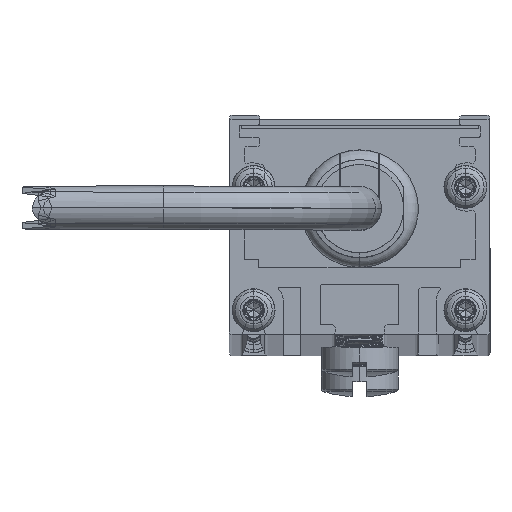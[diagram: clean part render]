
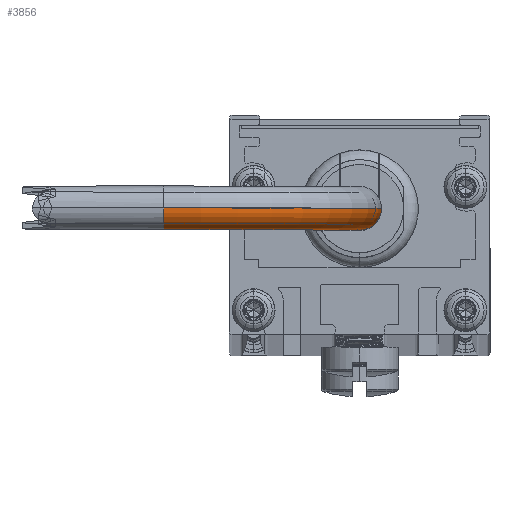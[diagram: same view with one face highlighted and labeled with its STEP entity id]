
A CAD part, top view. The second image highlights one B-rep face of the part: STEP entity #3856.
In plain terms, the highlighted toroidal (fillet/blend) face has major radius 25.4 mm and minor radius 2.845 mm.
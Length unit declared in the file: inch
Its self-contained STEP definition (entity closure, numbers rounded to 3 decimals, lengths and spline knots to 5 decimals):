
#222 = ORIENTED_EDGE ( 'NONE', *, *, #14963, .T. ) ;
#307 = TOROIDAL_SURFACE ( 'NONE', #14081, 1., 0.112 ) ;
#781 = CIRCLE ( 'NONE', #13940, 0.888 ) ;
#1013 = ORIENTED_EDGE ( 'NONE', *, *, #14126, .T. ) ;
#1018 = CARTESIAN_POINT ( 'NONE',  ( -0.112, 0., -1. ) ) ;
#1072 = DIRECTION ( 'NONE',  ( 0., 0., -1. ) ) ;
#1355 = CARTESIAN_POINT ( 'NONE',  ( 1., 0., -1. ) ) ;
#1572 = CARTESIAN_POINT ( 'NONE',  ( 1., 0., -1. ) ) ;
#1644 = FACE_OUTER_BOUND ( 'NONE', #11641, .T. ) ;
#1658 = VERTEX_POINT ( 'NONE', #3218 ) ;
#3039 = AXIS2_PLACEMENT_3D ( 'NONE', #1572, #13128, #4371 ) ;
#3125 = EDGE_CURVE ( 'NONE', #1658, #3799, #781, .T. ) ;
#3218 = CARTESIAN_POINT ( 'NONE',  ( 0.112, 0., -1. ) ) ;
#3799 = VERTEX_POINT ( 'NONE', #5457 ) ;
#3856 = ADVANCED_FACE ( 'NONE', ( #1644 ), #307, .T. ) ;
#3868 = CARTESIAN_POINT ( 'NONE',  ( 1., 0., -1. ) ) ;
#4026 = ORIENTED_EDGE ( 'NONE', *, *, #9128, .F. ) ;
#4371 = DIRECTION ( 'NONE',  ( 1., 0., 0. ) ) ;
#4765 = CARTESIAN_POINT ( 'NONE',  ( 0., 0., -1. ) ) ;
#5457 = CARTESIAN_POINT ( 'NONE',  ( 1., 0., -1.888 ) ) ;
#5577 = AXIS2_PLACEMENT_3D ( 'NONE', #11132, #15481, #15602 ) ;
#5600 = CIRCLE ( 'NONE', #10495, 0.112 ) ;
#6225 = VERTEX_POINT ( 'NONE', #12752 ) ;
#6524 = CIRCLE ( 'NONE', #3039, 1.112 ) ;
#6794 = VERTEX_POINT ( 'NONE', #1018 ) ;
#9128 = EDGE_CURVE ( 'NONE', #6794, #1658, #5600, .T. ) ;
#9753 = DIRECTION ( 'NONE',  ( 0., -1., 0. ) ) ;
#10495 = AXIS2_PLACEMENT_3D ( 'NONE', #4765, #10522, #12044 ) ;
#10522 = DIRECTION ( 'NONE',  ( 0., 0., 1. ) ) ;
#11132 = CARTESIAN_POINT ( 'NONE',  ( 1., 0., -2. ) ) ;
#11641 = EDGE_LOOP ( 'NONE', ( #4026, #1013, #222, #12892 ) ) ;
#12044 = DIRECTION ( 'NONE',  ( 1., 0., 0. ) ) ;
#12752 = CARTESIAN_POINT ( 'NONE',  ( 1., 0., -2.112 ) ) ;
#12892 = ORIENTED_EDGE ( 'NONE', *, *, #3125, .F. ) ;
#12956 = DIRECTION ( 'NONE',  ( 1., 0., 0. ) ) ;
#13128 = DIRECTION ( 'NONE',  ( 0., -1., 0. ) ) ;
#13940 = AXIS2_PLACEMENT_3D ( 'NONE', #1355, #18781, #12956 ) ;
#14081 = AXIS2_PLACEMENT_3D ( 'NONE', #3868, #9753, #1072 ) ;
#14126 = EDGE_CURVE ( 'NONE', #6794, #6225, #6524, .T. ) ;
#14963 = EDGE_CURVE ( 'NONE', #6225, #3799, #17893, .T. ) ;
#15481 = DIRECTION ( 'NONE',  ( -1., 0., 0. ) ) ;
#15602 = DIRECTION ( 'NONE',  ( 0., 0., 1. ) ) ;
#17893 = CIRCLE ( 'NONE', #5577, 0.112 ) ;
#18781 = DIRECTION ( 'NONE',  ( 0., -1., 0. ) ) ;
